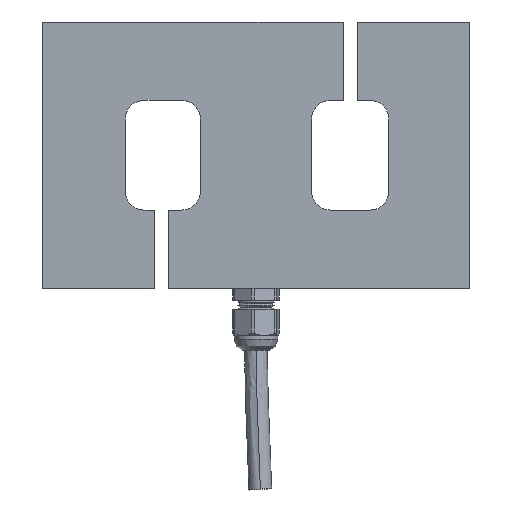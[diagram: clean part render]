
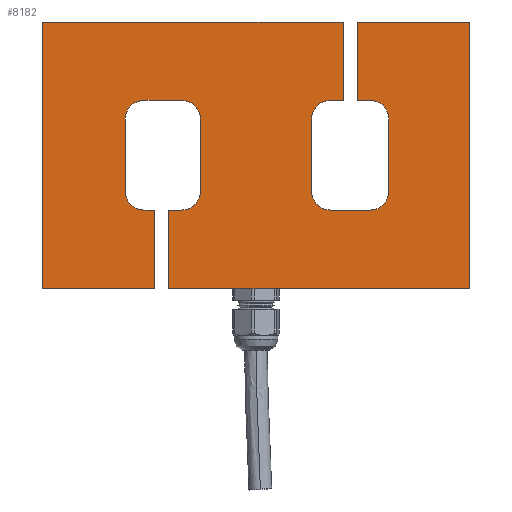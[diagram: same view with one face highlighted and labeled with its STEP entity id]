
A CAD part, left-side view. The second image highlights one B-rep face of the part: STEP entity #8182.
In plain terms, the highlighted planar face has unit normal (-1, 0, 0).
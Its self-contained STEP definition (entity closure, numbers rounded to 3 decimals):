
#748=PLANE('',#8898);
#1010=FACE_OUTER_BOUND('',#1575,.T.);
#1575=EDGE_LOOP('',(#6296,#6297,#6298,#6299,#6300,#6301,#6302,#6303,#6304,
#6305,#6306,#6307,#6308,#6309,#6310,#6311,#6312,#6313,#6314,#6315,#6316,
#6317,#6318,#6319,#6320,#6321,#6322,#6323));
#2081=LINE('',#11527,#2706);
#2176=LINE('',#13438,#2801);
#2179=LINE('',#13446,#2804);
#2180=LINE('',#13447,#2805);
#2181=LINE('',#13449,#2806);
#2182=LINE('',#13451,#2807);
#2183=LINE('',#13453,#2808);
#2184=LINE('',#13455,#2809);
#2185=LINE('',#13459,#2810);
#2186=LINE('',#13463,#2811);
#2187=LINE('',#13467,#2812);
#2188=LINE('',#13471,#2813);
#2189=LINE('',#13472,#2814);
#2190=LINE('',#13474,#2815);
#2191=LINE('',#13476,#2816);
#2192=LINE('',#13478,#2817);
#2193=LINE('',#13480,#2818);
#2194=LINE('',#13484,#2819);
#2195=LINE('',#13488,#2820);
#2196=LINE('',#13491,#2821);
#2706=VECTOR('',#9710,1000.);
#2801=VECTOR('',#9919,1000.);
#2804=VECTOR('',#9926,1000.);
#2805=VECTOR('',#9927,1000.);
#2806=VECTOR('',#9928,1000.);
#2807=VECTOR('',#9929,1000.);
#2808=VECTOR('',#9930,1000.);
#2809=VECTOR('',#9931,1000.);
#2810=VECTOR('',#9934,1000.);
#2811=VECTOR('',#9937,1000.);
#2812=VECTOR('',#9940,1000.);
#2813=VECTOR('',#9943,1000.);
#2814=VECTOR('',#9944,1000.);
#2815=VECTOR('',#9945,1000.);
#2816=VECTOR('',#9946,1000.);
#2817=VECTOR('',#9947,1000.);
#2818=VECTOR('',#9948,1000.);
#2819=VECTOR('',#9951,1000.);
#2820=VECTOR('',#9954,1000.);
#2821=VECTOR('',#9957,1000.);
#3418=CIRCLE('',#8899,6.35);
#3419=CIRCLE('',#8900,6.35);
#3420=CIRCLE('',#8901,6.35);
#3421=CIRCLE('',#8902,6.35);
#3422=CIRCLE('',#8903,6.35);
#3423=CIRCLE('',#8904,6.35);
#3424=CIRCLE('',#8905,6.35);
#3425=CIRCLE('',#8906,6.35);
#3624=VERTEX_POINT('',#11524);
#3625=VERTEX_POINT('',#11526);
#3921=VERTEX_POINT('',#13436);
#3922=VERTEX_POINT('',#13437);
#3923=VERTEX_POINT('',#13442);
#3924=VERTEX_POINT('',#13443);
#3925=VERTEX_POINT('',#13445);
#3926=VERTEX_POINT('',#13448);
#3927=VERTEX_POINT('',#13450);
#3928=VERTEX_POINT('',#13452);
#3929=VERTEX_POINT('',#13454);
#3930=VERTEX_POINT('',#13456);
#3931=VERTEX_POINT('',#13458);
#3932=VERTEX_POINT('',#13460);
#3933=VERTEX_POINT('',#13462);
#3934=VERTEX_POINT('',#13464);
#3935=VERTEX_POINT('',#13466);
#3936=VERTEX_POINT('',#13468);
#3937=VERTEX_POINT('',#13470);
#3938=VERTEX_POINT('',#13473);
#3939=VERTEX_POINT('',#13475);
#3940=VERTEX_POINT('',#13477);
#3941=VERTEX_POINT('',#13479);
#3942=VERTEX_POINT('',#13481);
#3943=VERTEX_POINT('',#13483);
#3944=VERTEX_POINT('',#13485);
#3945=VERTEX_POINT('',#13487);
#3946=VERTEX_POINT('',#13489);
#4526=EDGE_CURVE('',#3625,#3624,#2081,.T.);
#4824=EDGE_CURVE('',#3921,#3922,#2176,.T.);
#4827=EDGE_CURVE('',#3923,#3924,#3418,.T.);
#4828=EDGE_CURVE('',#3924,#3925,#2179,.T.);
#4829=EDGE_CURVE('',#3925,#3921,#2180,.T.);
#4830=EDGE_CURVE('',#3922,#3926,#2181,.T.);
#4831=EDGE_CURVE('',#3926,#3927,#2182,.T.);
#4832=EDGE_CURVE('',#3927,#3928,#2183,.T.);
#4833=EDGE_CURVE('',#3928,#3929,#2184,.T.);
#4834=EDGE_CURVE('',#3929,#3930,#3419,.T.);
#4835=EDGE_CURVE('',#3930,#3931,#2185,.T.);
#4836=EDGE_CURVE('',#3931,#3932,#3420,.T.);
#4837=EDGE_CURVE('',#3932,#3933,#2186,.T.);
#4838=EDGE_CURVE('',#3933,#3934,#3421,.T.);
#4839=EDGE_CURVE('',#3934,#3935,#2187,.T.);
#4840=EDGE_CURVE('',#3935,#3936,#3422,.T.);
#4841=EDGE_CURVE('',#3936,#3937,#2188,.T.);
#4842=EDGE_CURVE('',#3937,#3625,#2189,.T.);
#4843=EDGE_CURVE('',#3624,#3938,#2190,.T.);
#4844=EDGE_CURVE('',#3938,#3939,#2191,.T.);
#4845=EDGE_CURVE('',#3939,#3940,#2192,.T.);
#4846=EDGE_CURVE('',#3940,#3941,#2193,.T.);
#4847=EDGE_CURVE('',#3941,#3942,#3423,.T.);
#4848=EDGE_CURVE('',#3942,#3943,#2194,.T.);
#4849=EDGE_CURVE('',#3943,#3944,#3424,.T.);
#4850=EDGE_CURVE('',#3944,#3945,#2195,.T.);
#4851=EDGE_CURVE('',#3945,#3946,#3425,.T.);
#4852=EDGE_CURVE('',#3946,#3923,#2196,.T.);
#6296=ORIENTED_EDGE('',*,*,#4827,.T.);
#6297=ORIENTED_EDGE('',*,*,#4828,.T.);
#6298=ORIENTED_EDGE('',*,*,#4829,.T.);
#6299=ORIENTED_EDGE('',*,*,#4824,.T.);
#6300=ORIENTED_EDGE('',*,*,#4830,.T.);
#6301=ORIENTED_EDGE('',*,*,#4831,.T.);
#6302=ORIENTED_EDGE('',*,*,#4832,.T.);
#6303=ORIENTED_EDGE('',*,*,#4833,.T.);
#6304=ORIENTED_EDGE('',*,*,#4834,.T.);
#6305=ORIENTED_EDGE('',*,*,#4835,.T.);
#6306=ORIENTED_EDGE('',*,*,#4836,.T.);
#6307=ORIENTED_EDGE('',*,*,#4837,.T.);
#6308=ORIENTED_EDGE('',*,*,#4838,.T.);
#6309=ORIENTED_EDGE('',*,*,#4839,.T.);
#6310=ORIENTED_EDGE('',*,*,#4840,.T.);
#6311=ORIENTED_EDGE('',*,*,#4841,.T.);
#6312=ORIENTED_EDGE('',*,*,#4842,.T.);
#6313=ORIENTED_EDGE('',*,*,#4526,.T.);
#6314=ORIENTED_EDGE('',*,*,#4843,.T.);
#6315=ORIENTED_EDGE('',*,*,#4844,.T.);
#6316=ORIENTED_EDGE('',*,*,#4845,.T.);
#6317=ORIENTED_EDGE('',*,*,#4846,.T.);
#6318=ORIENTED_EDGE('',*,*,#4847,.T.);
#6319=ORIENTED_EDGE('',*,*,#4848,.T.);
#6320=ORIENTED_EDGE('',*,*,#4849,.T.);
#6321=ORIENTED_EDGE('',*,*,#4850,.T.);
#6322=ORIENTED_EDGE('',*,*,#4851,.T.);
#6323=ORIENTED_EDGE('',*,*,#4852,.T.);
#8182=ADVANCED_FACE('',(#1010),#748,.T.);
#8898=AXIS2_PLACEMENT_3D('',#13441,#9922,#9923);
#8899=AXIS2_PLACEMENT_3D('',#13444,#9924,#9925);
#8900=AXIS2_PLACEMENT_3D('',#13457,#9932,#9933);
#8901=AXIS2_PLACEMENT_3D('',#13461,#9935,#9936);
#8902=AXIS2_PLACEMENT_3D('',#13465,#9938,#9939);
#8903=AXIS2_PLACEMENT_3D('',#13469,#9941,#9942);
#8904=AXIS2_PLACEMENT_3D('',#13482,#9949,#9950);
#8905=AXIS2_PLACEMENT_3D('',#13486,#9952,#9953);
#8906=AXIS2_PLACEMENT_3D('',#13490,#9955,#9956);
#9710=DIRECTION('',(0.,1.,0.));
#9919=DIRECTION('',(0.,-1.,0.));
#9922=DIRECTION('center_axis',(-1.,0.,0.));
#9923=DIRECTION('ref_axis',(0.,0.,1.));
#9924=DIRECTION('center_axis',(1.,0.,0.));
#9925=DIRECTION('ref_axis',(0.,0.,-1.));
#9926=DIRECTION('',(0.,1.,0.));
#9927=DIRECTION('',(0.,0.,-1.));
#9928=DIRECTION('',(0.,0.,1.));
#9929=DIRECTION('',(0.,1.,0.));
#9930=DIRECTION('',(0.,0.,-1.));
#9931=DIRECTION('',(0.,-1.,0.));
#9932=DIRECTION('center_axis',(1.,0.,0.));
#9933=DIRECTION('ref_axis',(0.,0.,1.));
#9934=DIRECTION('',(0.,0.,-1.));
#9935=DIRECTION('center_axis',(1.,0.,0.));
#9936=DIRECTION('ref_axis',(0.,0.,-1.));
#9937=DIRECTION('',(0.,1.,0.));
#9938=DIRECTION('center_axis',(1.,0.,0.));
#9939=DIRECTION('ref_axis',(0.,0.,1.));
#9940=DIRECTION('',(0.,0.,1.));
#9941=DIRECTION('center_axis',(1.,0.,0.));
#9942=DIRECTION('ref_axis',(0.,0.,-1.));
#9943=DIRECTION('',(0.,-1.,0.));
#9944=DIRECTION('',(0.,0.,1.));
#9945=DIRECTION('',(0.,0.,-1.));
#9946=DIRECTION('',(0.,-1.,0.));
#9947=DIRECTION('',(0.,0.,1.));
#9948=DIRECTION('',(0.,1.,0.));
#9949=DIRECTION('center_axis',(1.,0.,0.));
#9950=DIRECTION('ref_axis',(0.,0.,1.));
#9951=DIRECTION('',(0.,0.,1.));
#9952=DIRECTION('center_axis',(1.,0.,0.));
#9953=DIRECTION('ref_axis',(0.,0.,-1.));
#9954=DIRECTION('',(0.,-1.,0.));
#9955=DIRECTION('center_axis',(1.,0.,0.));
#9956=DIRECTION('ref_axis',(0.,0.,1.));
#9957=DIRECTION('',(0.,0.,-1.));
#11524=CARTESIAN_POINT('',(-56.39,62.247,91.19));
#11526=CARTESIAN_POINT('',(-56.39,-40.603,91.19));
#11527=CARTESIAN_POINT('',(-56.39,-40.603,91.19));
#13436=CARTESIAN_POINT('',(-56.39,19.047,0.));
#13437=CARTESIAN_POINT('',(-56.39,-83.803,0.));
#13438=CARTESIAN_POINT('',(-56.39,19.047,0.));
#13441=CARTESIAN_POINT('Origin',(-56.39,27.577,33.19));
#13442=CARTESIAN_POINT('',(-56.39,8.247,33.19));
#13443=CARTESIAN_POINT('',(-56.39,14.597,26.84));
#13444=CARTESIAN_POINT('Origin',(-56.39,14.597,33.19));
#13445=CARTESIAN_POINT('',(-56.39,19.047,26.84));
#13446=CARTESIAN_POINT('',(-56.39,19.047,26.84));
#13447=CARTESIAN_POINT('',(-56.39,19.047,26.84));
#13448=CARTESIAN_POINT('',(-56.39,-83.803,91.19));
#13449=CARTESIAN_POINT('',(-56.39,-83.803,0.));
#13450=CARTESIAN_POINT('',(-56.39,-45.403,91.19));
#13451=CARTESIAN_POINT('',(-56.39,-83.803,91.19));
#13452=CARTESIAN_POINT('',(-56.39,-45.403,64.35));
#13453=CARTESIAN_POINT('',(-56.39,-45.403,91.19));
#13454=CARTESIAN_POINT('',(-56.39,-49.853,64.35));
#13455=CARTESIAN_POINT('',(-56.39,-49.853,64.35));
#13456=CARTESIAN_POINT('',(-56.39,-56.203,58.));
#13457=CARTESIAN_POINT('Origin',(-56.39,-49.853,58.));
#13458=CARTESIAN_POINT('',(-56.39,-56.203,33.19));
#13459=CARTESIAN_POINT('',(-56.39,-56.203,33.19));
#13460=CARTESIAN_POINT('',(-56.39,-49.853,26.84));
#13461=CARTESIAN_POINT('Origin',(-56.39,-49.853,33.19));
#13462=CARTESIAN_POINT('',(-56.39,-36.153,26.84));
#13463=CARTESIAN_POINT('',(-56.39,-36.153,26.84));
#13464=CARTESIAN_POINT('',(-56.39,-29.803,33.19));
#13465=CARTESIAN_POINT('Origin',(-56.39,-36.153,33.19));
#13466=CARTESIAN_POINT('',(-56.39,-29.803,58.));
#13467=CARTESIAN_POINT('',(-56.39,-29.803,33.19));
#13468=CARTESIAN_POINT('',(-56.39,-36.153,64.35));
#13469=CARTESIAN_POINT('Origin',(-56.39,-36.153,58.));
#13470=CARTESIAN_POINT('',(-56.39,-40.603,64.35));
#13471=CARTESIAN_POINT('',(-56.39,-36.153,64.35));
#13472=CARTESIAN_POINT('',(-56.39,-40.603,64.35));
#13473=CARTESIAN_POINT('',(-56.39,62.247,0.));
#13474=CARTESIAN_POINT('',(-56.39,62.247,91.19));
#13475=CARTESIAN_POINT('',(-56.39,23.847,0.));
#13476=CARTESIAN_POINT('',(-56.39,62.247,0.));
#13477=CARTESIAN_POINT('',(-56.39,23.847,26.84));
#13478=CARTESIAN_POINT('',(-56.39,23.847,0.));
#13479=CARTESIAN_POINT('',(-56.39,27.577,26.84));
#13480=CARTESIAN_POINT('',(-56.39,23.847,26.84));
#13481=CARTESIAN_POINT('',(-56.39,33.927,33.19));
#13482=CARTESIAN_POINT('Origin',(-56.39,27.577,33.19));
#13483=CARTESIAN_POINT('',(-56.39,33.927,58.));
#13484=CARTESIAN_POINT('',(-56.39,33.927,58.));
#13485=CARTESIAN_POINT('',(-56.39,27.577,64.35));
#13486=CARTESIAN_POINT('Origin',(-56.39,27.577,58.));
#13487=CARTESIAN_POINT('',(-56.39,14.597,64.35));
#13488=CARTESIAN_POINT('',(-56.39,27.577,64.35));
#13489=CARTESIAN_POINT('',(-56.39,8.247,58.));
#13490=CARTESIAN_POINT('Origin',(-56.39,14.597,58.));
#13491=CARTESIAN_POINT('',(-56.39,8.247,58.));
